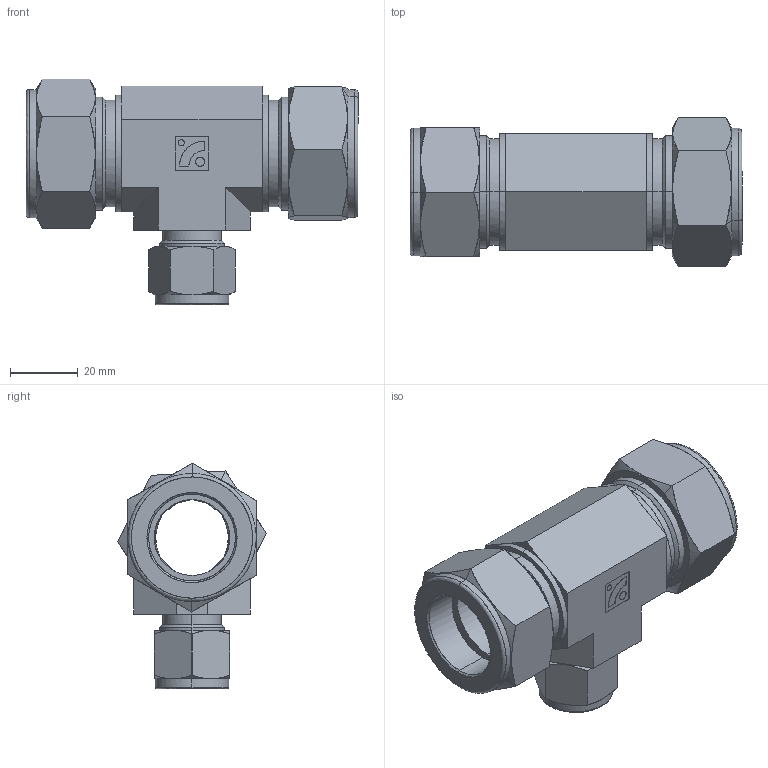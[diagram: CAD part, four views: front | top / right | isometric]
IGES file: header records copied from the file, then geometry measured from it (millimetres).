
Start section: Comment
Global section: file name: SRUT16-16-8.igs; native system:  By UGS Corp.; preprocessor: XPlus GENERIC/IGES 3.0; author: Author; organization: Title; date: 20100713.193924; units: millimetre
Bounding box: 98.05 x 43.92 x 66.7 mm (x, y, z)
Surface area: 32365 mm2 (no closed solid volume)
Topology: 0 solids, 0 shells, 189 faces, 824 edges, 824 vertices
Faces by surface type: bspline 189
